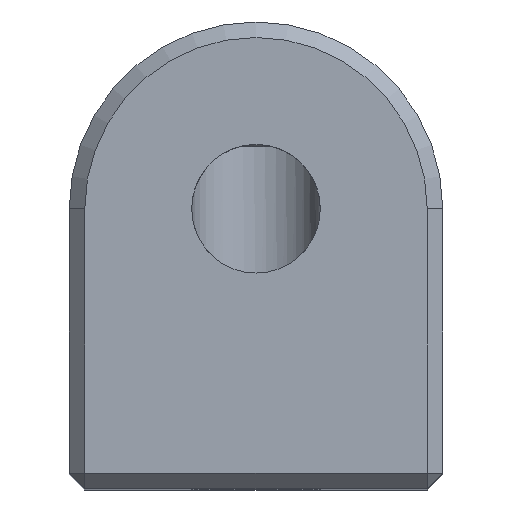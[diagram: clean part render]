
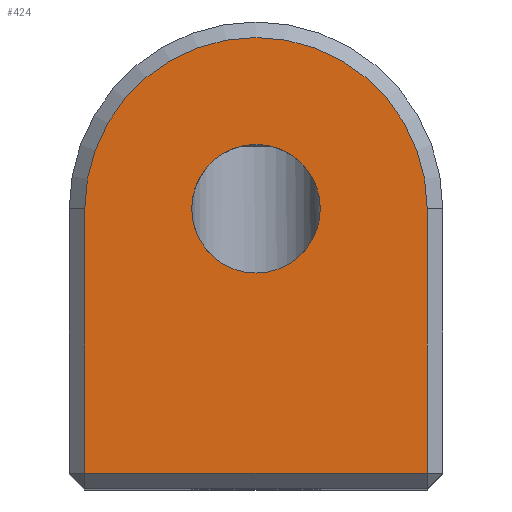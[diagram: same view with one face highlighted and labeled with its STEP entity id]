
A CAD part, top view. The second image highlights one B-rep face of the part: STEP entity #424.
In plain terms, the highlighted planar face has unit normal (0, 0, 1).
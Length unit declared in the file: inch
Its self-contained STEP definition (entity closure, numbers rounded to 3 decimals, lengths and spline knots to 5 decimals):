
#18=FACE_BOUND('',#89,.T.);
#39=PLANE('',#481);
#61=FACE_OUTER_BOUND('',#88,.T.);
#88=EDGE_LOOP('',(#354,#355,#356,#357));
#89=EDGE_LOOP('',(#358));
#111=CIRCLE('',#477,0.21654);
#112=CIRCLE('',#482,0.08138);
#125=LINE('',#649,#165);
#146=LINE('',#693,#186);
#150=LINE('',#703,#190);
#165=VECTOR('',#523,0.3937);
#186=VECTOR('',#566,0.3937);
#190=VECTOR('',#578,0.3937);
#202=VERTEX_POINT('',#635);
#205=VERTEX_POINT('',#642);
#219=VERTEX_POINT('',#691);
#221=VERTEX_POINT('',#698);
#222=VERTEX_POINT('',#709);
#242=EDGE_CURVE('',#205,#202,#125,.T.);
#265=EDGE_CURVE('',#219,#205,#146,.T.);
#269=EDGE_CURVE('',#221,#219,#111,.T.);
#271=EDGE_CURVE('',#202,#221,#150,.T.);
#274=EDGE_CURVE('',#222,#222,#112,.T.);
#354=ORIENTED_EDGE('',*,*,#242,.F.);
#355=ORIENTED_EDGE('',*,*,#265,.F.);
#356=ORIENTED_EDGE('',*,*,#269,.F.);
#357=ORIENTED_EDGE('',*,*,#271,.F.);
#358=ORIENTED_EDGE('',*,*,#274,.T.);
#424=ADVANCED_FACE('',(#61,#18),#39,.T.);
#477=AXIS2_PLACEMENT_3D('',#700,#573,#574);
#481=AXIS2_PLACEMENT_3D('',#708,#585,#586);
#482=AXIS2_PLACEMENT_3D('',#710,#587,#588);
#523=DIRECTION('',(-1.,0.,0.));
#566=DIRECTION('',(0.,-1.,0.));
#573=DIRECTION('center_axis',(0.,0.,-1.));
#574=DIRECTION('ref_axis',(0.707,0.707,0.));
#578=DIRECTION('',(0.,1.,0.));
#585=DIRECTION('center_axis',(0.,0.,1.));
#586=DIRECTION('ref_axis',(1.,0.,0.));
#587=DIRECTION('center_axis',(0.,0.,-1.));
#588=DIRECTION('ref_axis',(1.,0.,0.));
#635=CARTESIAN_POINT('',(-0.21654,-0.33465,0.));
#642=CARTESIAN_POINT('',(0.21654,-0.33465,0.));
#649=CARTESIAN_POINT('',(0.11811,-0.33465,0.));
#691=CARTESIAN_POINT('',(0.21654,0.,0.));
#693=CARTESIAN_POINT('',(0.21654,0.08858,0.));
#698=CARTESIAN_POINT('',(-0.21654,0.,0.));
#700=CARTESIAN_POINT('Origin',(0.,0.,
0.));
#703=CARTESIAN_POINT('',(-0.21654,-0.20669,0.));
#708=CARTESIAN_POINT('Origin',(0.,-0.05906,
0.));
#709=CARTESIAN_POINT('',(-0.08138,0.,0.));
#710=CARTESIAN_POINT('Origin',(0.,0.,0.));
